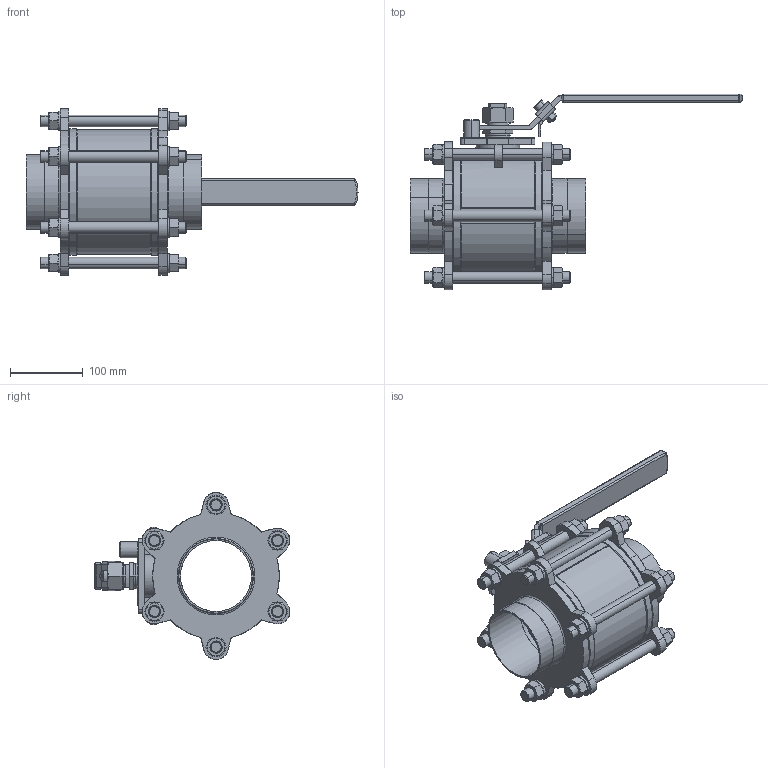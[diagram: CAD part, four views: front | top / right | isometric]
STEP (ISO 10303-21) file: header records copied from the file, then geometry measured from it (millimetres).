
FILE_DESCRIPTION (( 'STEP AP203' ), '1' );
FILE_NAME ('BAV-W-4.0.STEP', '2019-06-17T06:11:29', ( '' ), ( '' ), 'SwSTEP 2.0', 'SolidWorks 2014', '' );
FILE_SCHEMA (( 'CONFIG_CONTROL_DESIGN' ));
Length unit declared in the file: millimetre
Products named in the file (21): 2WAY-BOLT NUT-4.0; 2WAY-GLAND-4.0; 2WAY-HANDLE-4.0-3-1; BAV-W-4.0; 2WAY-CAP-W-4.0; 2WAY-HANDLE-4.0; 2WAY-BODY-4.0; 2WAY-STOP PIN-4.0; 2WAY-STEM PACKINGS-4.0; 2WAY-HANDLE-4.0-1; 2WAY-BALL-4.0; 2WAY-HANDLE NUT-4.0; 2WAY-GASKET-4.0; 2WAY-HANDLE-4.0-3; 2WAY-HANDLE WASHERS-4.0; 2WAY-THRUST WASHER-4.0; 2WAY-BOLT WASHERS-4.0; 2WAY-HANDLE-4.0-2; 2WAY-STEM-4.0; 2WAY-BOLT-4.0; 2WAY-SEAT-4.0
Assembly tree (50 placements, depth 2):
  BAV-W-4.0
    2WAY-BODY-4.0
    2WAY-STEM-4.0
    2WAY-THRUST WASHER-4.0
    2WAY-BALL-4.0
    2WAY-SEAT-4.0  x2
    2WAY-GASKET-4.0  x2
    2WAY-GLAND-4.0
    2WAY-STEM PACKINGS-4.0
    2WAY-HANDLE NUT-4.0
    2WAY-HANDLE WASHERS-4.0
    2WAY-HANDLE-4.0
    2WAY-HANDLE-4.0-1
    2WAY-HANDLE-4.0-2
    2WAY-HANDLE-4.0-3
    2WAY-HANDLE-4.0-3-1
    2WAY-STOP PIN-4.0
    2WAY-BOLT-4.0  x6
    2WAY-BOLT NUT-4.0  x12
    2WAY-BOLT WASHERS-4.0  x12
    2WAY-CAP-W-4.0  x2
Bounding box: 455.41 x 268.66 x 228.99 mm (x, y, z)
Volume: 3073000.9 mm3; surface area: 771222.8 mm2
Topology: 50 solids, 50 shells, 1243 faces, 2855 edges, 1709 vertices
Faces by surface type: cylinder 462, plane 326, cone 215, torus 171, sphere 39, bspline 30
Entity records: 27040 total; most frequent: CARTESIAN_POINT 6207, DIRECTION 4088, ORIENTED_EDGE 3510, EDGE_CURVE 1755, AXIS2_PLACEMENT_3D 1719, VERTEX_POINT 1035, CIRCLE 922, EDGE_LOOP 850
